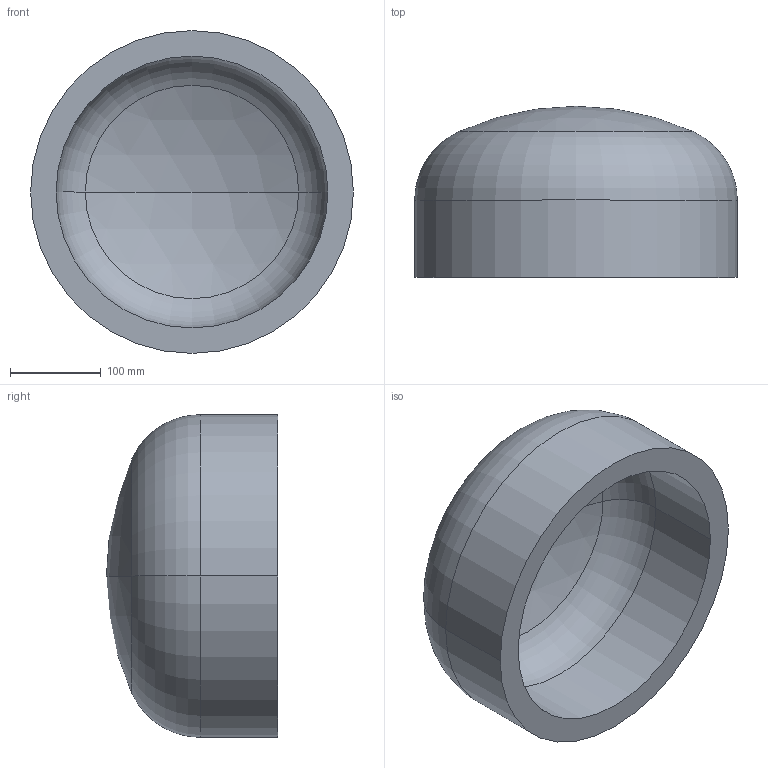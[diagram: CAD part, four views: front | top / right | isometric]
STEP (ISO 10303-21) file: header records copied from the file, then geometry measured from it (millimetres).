
FILE_DESCRIPTION (( 'STEP AP203' ), '1' );
FILE_NAME ('DIN 28013 Korbbogenform_-_Boden DIN 28013 - 355,6 x 85 - I - s=28.step', '2016-07-01T07:47:21', ( '' ), ( '' ), 'SwSTEP 2.0', 'SolidWorks 2013', '' );
FILE_SCHEMA (( 'CONFIG_CONTROL_DESIGN' ));
Length unit declared in the file: millimetre
Products named in the file (1): DIN 28013 Korbbogenform_-_Boden DIN 28013 - 355,6 x 85 - I - s=28
Bounding box: 355.6 x 188.54 x 355.6 mm (x, y, z)
Volume: 5941469.3 mm3; surface area: 454849.8 mm2
Topology: 1 solids, 1 shells, 13 faces, 24 edges, 14 vertices
Faces by surface type: torus 4, cylinder 4, sphere 4, plane 1
Entity records: 407 total; most frequent: DIRECTION 72, CARTESIAN_POINT 52, ORIENTED_EDGE 48, AXIS2_PLACEMENT_3D 34, EDGE_CURVE 24, CIRCLE 20, EDGE_LOOP 14, VERTEX_POINT 14
